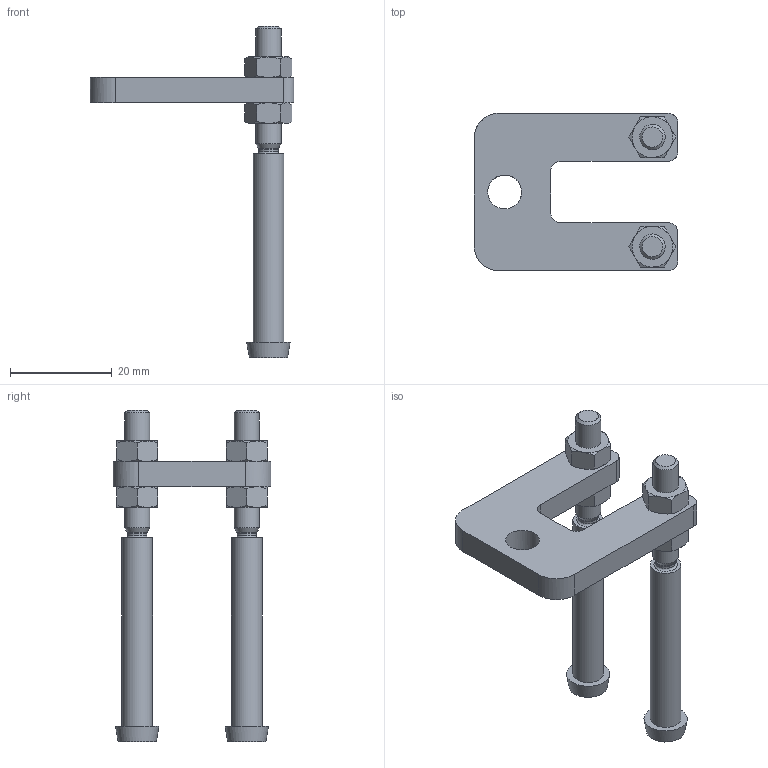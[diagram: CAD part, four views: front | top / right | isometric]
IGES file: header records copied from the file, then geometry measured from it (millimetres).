
Global section: file name: 93.00; native system: Autodesk Inventor 2014; preprocessor: unknown; author: APto; date: 20160505.154322; units: millimetre
Bounding box: 40 x 31 x 65 mm (x, y, z)
Volume: 8327.9 mm3; surface area: 7115.6 mm2
Topology: 11 solids, 11 shells, 159 faces, 372 edges, 241 vertices
Faces by surface type: bspline 159
